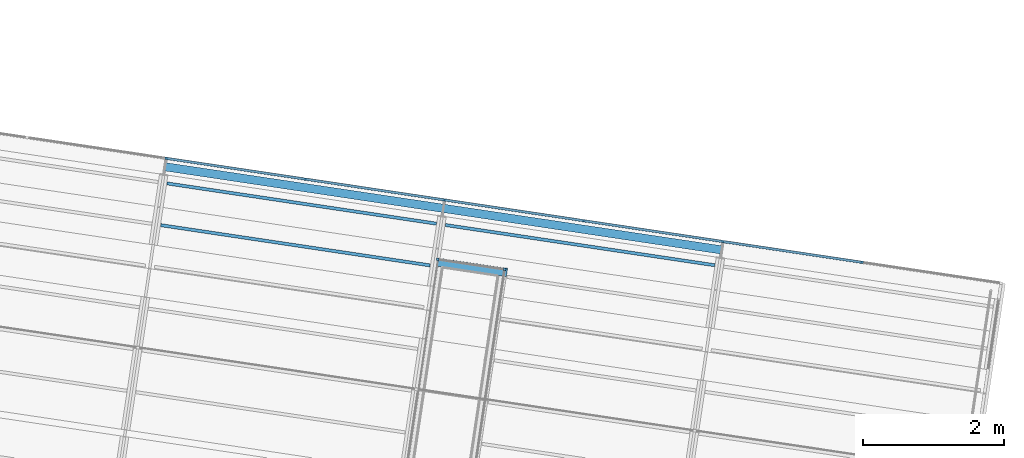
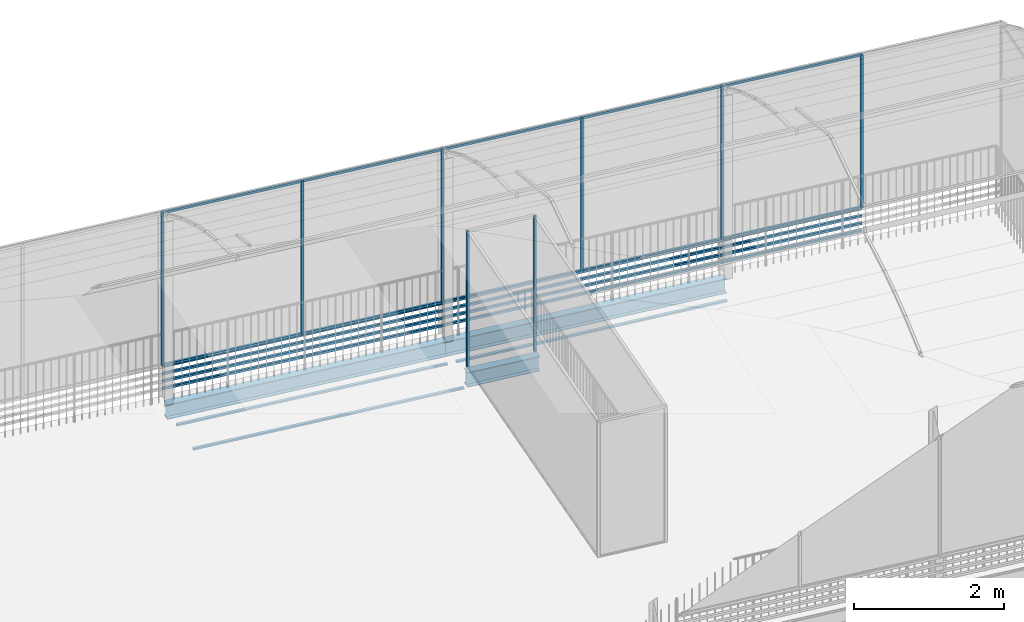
# One storey, part 16 of 34: 46 members, 6 beams.
"""IFC4 building model written with IfcOpenShell, lengths in metres."""

import ifcopenshell
import ifcopenshell.guid

model = None  # the IFC model being written
_history = None  # IfcOwnerHistory: only IFC2X3 demands one
_inside = {}  # id of a spatial element -> (the spatial element, [elements in it])
_under = {}  # id of a project, library or spatial element -> (it, [spatial elements below it])
_declared = {}  # id of a project -> (the project, [libraries it declares])
_typed = {}  # id of a type object -> (the type object, [elements of that type])
_made_of = {}  # id of a material, layer set ... -> (it, [elements and type objects made of it])


def new_model(schema):
    """Start an empty IFC model of exactly this schema.

    Asked for "IFC4X3", IfcOpenShell would pick the latest addendum, in which some entities
    have other attributes; the version numbers below select the first issue.
    IFC2X3 requires an IfcOwnerHistory on every rooted entity: one is made here for all.
    """
    global model, _history
    if schema == "IFC4X3":
        model = ifcopenshell.file(schema_version=(4, 3, 0, 0))
    else:
        model = ifcopenshell.file(schema=schema)
    _inside.clear()
    _under.clear()
    _declared.clear()
    _typed.clear()
    _made_of.clear()
    _history = None
    if model.schema == "IFC2X3":
        org = make("IfcOrganization", Name="unknown")
        user = make(
            "IfcPersonAndOrganization",
            ThePerson=make("IfcPerson", FamilyName="unknown"),
            TheOrganization=org,
        )
        app = make(
            "IfcApplication",
            ApplicationDeveloper=org,
            Version="unknown",
            ApplicationFullName="unknown",
            ApplicationIdentifier="unknown",
        )
        _history = make(
            "IfcOwnerHistory",
            OwningUser=user,
            OwningApplication=app,
            ChangeAction="ADDED",
            CreationDate=0,
        )
    return model


def make(cls, **values):
    """One entity of the class cls with the attributes given. An attribute that is None is left unset."""
    return model.create_entity(
        cls, **{name: value for name, value in values.items() if value is not None}
    )


def rooted(cls, **values):
    """An entity with a GlobalId (a new one), such as an element, a storey or a relation."""
    return make(cls, GlobalId=ifcopenshell.guid.new(), OwnerHistory=_history, **values)


def si_unit(unit_type, name, prefix=None):
    """IfcSIUnit, for example si_unit("LENGTHUNIT", "METRE", prefix="MILLI")."""
    return make("IfcSIUnit", UnitType=unit_type, Prefix=prefix, Name=name)


def assignment(units):
    """IfcUnitAssignment: the units of a project."""
    return None if units is None else make("IfcUnitAssignment", Units=units)


def point(xyz):
    """IfcCartesianPoint."""
    return None if xyz is None else make("IfcCartesianPoint", Coordinates=xyz)


def direction(xyz):
    """IfcDirection."""
    return None if xyz is None else make("IfcDirection", DirectionRatios=xyz)


def frame(location, z_axis=None, x_axis=None):
    """IfcAxis2Placement3D, a coordinate frame: its origin and axes. An axis left out is left unset."""
    return make(
        "IfcAxis2Placement3D",
        Location=point(location),
        Axis=direction(z_axis),
        RefDirection=direction(x_axis),
    )


def origin_with_axes():
    """The frame at (0, 0, 0) with the z axis (0, 0, 1) and the x axis (1, 0, 0) written out."""
    return frame((0.0, 0.0, 0.0), z_axis=(0.0, 0.0, 1.0), x_axis=(1.0, 0.0, 0.0))


def place(relative_to, where):
    """IfcLocalPlacement: puts the frame where relative to a parent placement (None: the world)."""
    return make(
        "IfcLocalPlacement", PlacementRelTo=relative_to, RelativePlacement=where
    )


def context(
    kind, dimensions, precision=None, world=None, true_north=None, identifier=None
):
    """IfcGeometricRepresentationContext, for example the 3D "Model" context."""
    return make(
        "IfcGeometricRepresentationContext",
        ContextIdentifier=identifier,
        ContextType=kind,
        CoordinateSpaceDimension=dimensions,
        Precision=precision,
        WorldCoordinateSystem=world,
        TrueNorth=true_north,
    )


def subcontext(parent, identifier, kind, view, scale=None):
    """IfcGeometricRepresentationSubContext, for example "Body" below "Model"."""
    return make(
        "IfcGeometricRepresentationSubContext",
        ContextIdentifier=identifier,
        ContextType=kind,
        ParentContext=parent,
        TargetScale=scale,
        TargetView=view,
    )


def project(units=None, contexts=None):
    """IfcProject with its units and contexts."""
    return rooted(
        "IfcProject",
        Name="project",
        RepresentationContexts=contexts,
        UnitsInContext=assignment(units),
    )


def spatial(cls, under=None, at=None, **own):
    """A site, building, storey or space (cls), placed at a placement, below another one or the project."""
    s = rooted(cls, ObjectPlacement=at, **own)
    if under is not None:
        _under.setdefault(under.id(), (under, []))[1].append(s)
    return s


def polyline(points):
    """IfcPolyline through the points."""
    return make("IfcPolyline", Points=[point(p) for p in points])


def profile(cls, at=None, kind="AREA", **sizes):
    """A parametric profile (cls). Its sizes go by their IFC names, for example OverallWidth=200.0."""
    return make(cls, ProfileType=kind, Position=at, **sizes)


def rectangle(**sizes):
    """IfcRectangleProfileDef."""
    return profile("IfcRectangleProfileDef", **sizes)


def i_section(**sizes):
    """IfcIShapeProfileDef."""
    return profile("IfcIShapeProfileDef", **sizes)


def outline(outer, holes=None, kind="AREA"):
    """IfcArbitraryClosedProfileDef: a profile drawn as a closed curve; with holes, ...WithVoids."""
    if holes is None:
        return make("IfcArbitraryClosedProfileDef", ProfileType=kind, OuterCurve=outer)
    return make(
        "IfcArbitraryProfileDefWithVoids",
        ProfileType=kind,
        OuterCurve=outer,
        InnerCurves=holes,
    )


def extrude(swept, where, along, depth):
    """IfcExtrudedAreaSolid: the profile swept, set in the frame where, extruded along a direction by depth."""
    return make(
        "IfcExtrudedAreaSolid",
        SweptArea=swept,
        Position=where,
        ExtrudedDirection=direction(along),
        Depth=depth,
    )


def shape(context_of_items, identifier, shape_type, items):
    """IfcShapeRepresentation: the items that make up one representation, for example the "Body"."""
    return make(
        "IfcShapeRepresentation",
        ContextOfItems=context_of_items,
        RepresentationIdentifier=identifier,
        RepresentationType=shape_type,
        Items=items,
    )


def material(Name=None, Category=None):
    """IfcMaterial."""
    return make("IfcMaterial", Name=Name, Category=Category)


def material_profile(
    of_material, cross_section, Name=None, Category=None, Priority=None
):
    """IfcMaterialProfile: a cross section and its material."""
    return make(
        "IfcMaterialProfile",
        Name=Name,
        Material=of_material,
        Profile=cross_section,
        Priority=Priority,
        Category=Category,
    )


def profile_set(profiles, Name=None, composite=None):
    """IfcMaterialProfileSet."""
    return make(
        "IfcMaterialProfileSet",
        Name=Name,
        MaterialProfiles=profiles,
        CompositeProfile=composite,
    )


def profile_usage(for_profile_set, cardinal=None, extent=None):
    """IfcMaterialProfileSetUsage: how a profile set lies along its element."""
    return make(
        "IfcMaterialProfileSetUsage",
        ForProfileSet=for_profile_set,
        CardinalPoint=cardinal,
        ReferenceExtent=extent,
    )


def made_of(thing, what):
    """Note that an element or type object is made of a material, layer set ...; save() writes the relation."""
    if what is not None:
        _made_of.setdefault(what.id(), (what, []))[1].append(thing)
    return thing


def type_object(cls, material=None, **own):
    """A type object (cls), such as IfcWallType, which elements share."""
    return made_of(rooted(cls, **own), material)


def element(
    cls,
    number,
    at=None,
    inside=None,
    cuts=None,
    type_object=None,
    material=None,
    context=None,
    identifier="Body",
    shape_type=None,
    held_by="IfcProductDefinitionShape",
    body=None,
    shapes=None,
    **own,
):
    """One element of the class cls, such as IfcWall. Its Tag is "e" and its number.

    at: its placement. inside: the storey or other place that contains it. cuts: it is an
    opening in that element (IfcRelVoidsElement). A single representation is given by context,
    identifier, shape_type and body (its items); several are given by shapes. held_by: the class
    of the entity that holds the representations. save() writes the other relations.
    """
    e = rooted(cls, Tag="e%d" % number, ObjectPlacement=at, **own)
    if body is not None:
        shapes = [shape(context, identifier, shape_type, body)]
    if shapes is not None:
        e.Representation = make(held_by, Representations=shapes)
    if inside is not None:
        _inside.setdefault(inside.id(), (inside, []))[1].append(e)
    if cuts is not None:
        rooted(
            "IfcRelVoidsElement", RelatingBuildingElement=cuts, RelatedOpeningElement=e
        )
    if type_object is not None:
        _typed.setdefault(type_object.id(), (type_object, []))[1].append(e)
    return made_of(e, material)


def aggregate(whole, parts):
    """IfcRelAggregates: a whole, such as a stair, and the parts it consists of."""
    return rooted("IfcRelAggregates", RelatingObject=whole, RelatedObjects=parts)


def save(model, path):
    """Write the relations noted so far, then the file.

    IfcRelAggregates (storeys below a building ...), IfcRelContainedInSpatialStructure (elements
    in a storey), IfcRelDefinesByType, IfcRelAssociatesMaterial and IfcRelDeclares: one each for
    every whole, place, type object, material and project.
    """
    for whole, parts in _under.values():
        aggregate(whole, parts)
    for where, things in _inside.values():
        rooted(
            "IfcRelContainedInSpatialStructure",
            RelatedElements=things,
            RelatingStructure=where,
        )
    for kind, things in _typed.values():
        rooted("IfcRelDefinesByType", RelatedObjects=things, RelatingType=kind)
    for what, things in _made_of.values():
        rooted("IfcRelAssociatesMaterial", RelatedObjects=things, RelatingMaterial=what)
    for by, libraries in _declared.values():
        rooted("IfcRelDeclares", RelatingContext=by, RelatedDefinitions=libraries)
    model.write(path)


model = new_model("IFC4")

# Units and contexts
model_context = context("Model", 3, precision=1e-05, world=origin_with_axes(), true_north=direction((0.0, 1.0)))
body_context = subcontext(model_context, "Body", "Model", "MODEL_VIEW")
ifc_project = project(units=[si_unit("LENGTHUNIT", "METRE"), si_unit("AREAUNIT", "SQUARE_METRE"), si_unit("VOLUMEUNIT", "CUBIC_METRE")], contexts=[model_context])

# Site, building, storey
site_placement = place(None, origin_with_axes())
site = spatial("IfcSite", under=ifc_project, at=site_placement, Name="Lares · Rua das Mercês · artigo 4771")
building_placement = place(site_placement, frame((15.0, 9.7, 14.65), z_axis=(0.0, 0.0, 1.0), x_axis=(0.989015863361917, -0.147809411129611, 0.0)))
building = spatial("IfcBuilding", under=site, at=building_placement, Name="Casa Sobreposta")
storey_placement = place(building_placement, frame((0.0, 0.0, 3.24), z_axis=(0.0, 0.0, 1.0), x_axis=(1.0, 0.0, 0.0)))
storey = spatial("IfcBuildingStorey", under=building, at=storey_placement, Name="01 · Jardim de inverno", Elevation=17.89)

# Beams
ifc_material_1 = material(Name="Aço pintado / Stahl lackiert", Category="steel")
ifc_material_profile_1 = material_profile(ifc_material_1, i_section(OverallWidth=0.12, OverallDepth=0.24, WebThickness=0.0062, FlangeThickness=0.0098))
ifc_profile_set_1 = profile_set([ifc_material_profile_1], Name="IPE240")
ifc_profile_usage_1 = profile_usage(ifc_profile_set_1)
beam_type = type_object("IfcBeamType", Name="IPE240 / steel", PredefinedType="NOTDEFINED", material=ifc_profile_set_1)
beam_1_placement = place(storey_placement, frame((20.0, 6.28, -0.152), z_axis=(1.0, 0.0, 0.0), x_axis=(0.0, -1.0, 0.0)))
element("IfcBeam", 1, at=beam_1_placement, inside=storey, type_object=beam_type, material=ifc_profile_usage_1, Name="Viga longitudinal 20 / 6.28", context=body_context, shape_type="SweptSolid", body=[
    extrude(i_section(OverallWidth=0.12, OverallDepth=0.24, WebThickness=0.0062, FlangeThickness=0.0098), origin_with_axes(), (0.0, 0.0, 1.0), 4.0),
])
ifc_profile_usage_2 = profile_usage(ifc_profile_set_1)
beam_2_placement = place(storey_placement, frame((24.0, 6.28, -0.152), z_axis=(1.0, 0.0, 0.0), x_axis=(0.0, -1.0, 0.0)))
element("IfcBeam", 2, at=beam_2_placement, inside=storey, type_object=beam_type, material=ifc_profile_usage_2, Name="Viga longitudinal 24 / 6.28", context=body_context, shape_type="SweptSolid", body=[
    extrude(i_section(OverallWidth=0.12, OverallDepth=0.24, WebThickness=0.0062, FlangeThickness=0.0098), origin_with_axes(), (0.0, 0.0, 1.0), 4.0),
])
ifc_profile_usage_3 = profile_usage(ifc_profile_set_1)
beam_3_placement = place(storey_placement, frame((23.99, 5.5125, -0.152), z_axis=(1.0, 0.0, 0.0), x_axis=(0.0, -1.0, 0.0)))
element("IfcBeam", 3, at=beam_3_placement, inside=storey, type_object=beam_type, material=ifc_profile_usage_3, Name="Cabeceira do vão 2", context=body_context, shape_type="SweptSolid", body=[
    extrude(i_section(OverallWidth=0.12, OverallDepth=0.24, WebThickness=0.0062, FlangeThickness=0.0098), origin_with_axes(), (0.0, 0.0, 1.0), 1.04),
])

# Members
ifc_material_profile_2 = material_profile(ifc_material_1, rectangle(XDim=0.035, YDim=0.035))
ifc_profile_set_2 = profile_set([ifc_material_profile_2], Name="R0.035")
ifc_profile_usage_4 = profile_usage(ifc_profile_set_2)
member_type = type_object("IfcMemberType", Name="R0.035 / steel", PredefinedType="NOTDEFINED", material=ifc_profile_set_2)
member_1_placement = place(storey_placement, frame((20.0, 6.4, 0.5), z_axis=(0.0, 0.0, 1.0), x_axis=(1.0, 0.0, 0.0)))
element("IfcMember", 4, at=member_1_placement, inside=storey, type_object=member_type, material=ifc_profile_usage_4, context=body_context, shape_type="SweptSolid", body=[
    extrude(rectangle(XDim=0.035, YDim=0.035), origin_with_axes(), (0.0, 0.0, 1.0), 2.48),
])
ifc_profile_usage_5 = profile_usage(ifc_profile_set_2)
member_2_placement = place(storey_placement, frame((20.0, 6.4, 0.5), z_axis=(0.0, 0.0, 1.0), x_axis=(1.0, 0.0, 0.0)))
element("IfcMember", 5, at=member_2_placement, inside=storey, type_object=member_type, material=ifc_profile_usage_5, context=body_context, shape_type="SweptSolid", body=[
    extrude(rectangle(XDim=0.035, YDim=0.035), origin_with_axes(), (0.0, 0.0, 1.0), 2.48),
])
ifc_profile_usage_6 = profile_usage(ifc_profile_set_2)
member_3_placement = place(storey_placement, frame((22.0, 6.4, 0.5), z_axis=(0.0, 0.0, 1.0), x_axis=(1.0, 0.0, 0.0)))
element("IfcMember", 6, at=member_3_placement, inside=storey, type_object=member_type, material=ifc_profile_usage_6, context=body_context, shape_type="SweptSolid", body=[
    extrude(rectangle(XDim=0.035, YDim=0.035), origin_with_axes(), (0.0, 0.0, 1.0), 2.48),
])
ifc_profile_usage_7 = profile_usage(ifc_profile_set_2)
member_4_placement = place(storey_placement, frame((20.0, 6.4, 0.5), z_axis=(1.0, 0.0, 0.0), x_axis=(0.0, -1.0, 0.0)))
element("IfcMember", 7, at=member_4_placement, inside=storey, type_object=member_type, material=ifc_profile_usage_7, Name="Estufa norte 11 · travessa", context=body_context, shape_type="SweptSolid", body=[
    extrude(rectangle(XDim=0.035, YDim=0.035), origin_with_axes(), (0.0, 0.0, 1.0), 2.0),
])
ifc_profile_usage_8 = profile_usage(ifc_profile_set_2)
member_5_placement = place(storey_placement, frame((20.0, 6.4, 2.98), z_axis=(1.0, 0.0, 0.0), x_axis=(0.0, -1.0, 0.0)))
element("IfcMember", 8, at=member_5_placement, inside=storey, type_object=member_type, material=ifc_profile_usage_8, Name="Estufa norte 11 · travessa", context=body_context, shape_type="SweptSolid", body=[
    extrude(rectangle(XDim=0.035, YDim=0.035), origin_with_axes(), (0.0, 0.0, 1.0), 2.0),
])
ifc_profile_usage_9 = profile_usage(ifc_profile_set_2)
member_6_placement = place(storey_placement, frame((20.0, 6.4, 0.12), z_axis=(1.0, 0.0, 0.0), x_axis=(0.0, -1.0, 0.0)))
element("IfcMember", 9, at=member_6_placement, inside=storey, type_object=member_type, material=ifc_profile_usage_9, Name="Entrada de ar norte 11", context=body_context, shape_type="SweptSolid", body=[
    extrude(rectangle(XDim=0.035, YDim=0.035), origin_with_axes(), (0.0, 0.0, 1.0), 2.0),
])
ifc_profile_usage_10 = profile_usage(ifc_profile_set_2)
member_7_placement = place(storey_placement, frame((20.0, 6.4, 0.24), z_axis=(1.0, 0.0, 0.0), x_axis=(0.0, -1.0, 0.0)))
element("IfcMember", 10, at=member_7_placement, inside=storey, type_object=member_type, material=ifc_profile_usage_10, Name="Entrada de ar norte 11", context=body_context, shape_type="SweptSolid", body=[
    extrude(rectangle(XDim=0.035, YDim=0.035), origin_with_axes(), (0.0, 0.0, 1.0), 2.0),
])
ifc_profile_usage_11 = profile_usage(ifc_profile_set_2)
member_8_placement = place(storey_placement, frame((20.0, 6.4, 0.36), z_axis=(1.0, 0.0, 0.0), x_axis=(0.0, -1.0, 0.0)))
element("IfcMember", 11, at=member_8_placement, inside=storey, type_object=member_type, material=ifc_profile_usage_11, Name="Entrada de ar norte 11", context=body_context, shape_type="SweptSolid", body=[
    extrude(rectangle(XDim=0.035, YDim=0.035), origin_with_axes(), (0.0, 0.0, 1.0), 2.0),
])
ifc_profile_usage_12 = profile_usage(ifc_profile_set_2)
member_9_placement = place(storey_placement, frame((20.0, 6.4, 0.48), z_axis=(1.0, 0.0, 0.0), x_axis=(0.0, -1.0, 0.0)))
element("IfcMember", 12, at=member_9_placement, inside=storey, type_object=member_type, material=ifc_profile_usage_12, Name="Entrada de ar norte 11", context=body_context, shape_type="SweptSolid", body=[
    extrude(rectangle(XDim=0.035, YDim=0.035), origin_with_axes(), (0.0, 0.0, 1.0), 2.0),
])
ifc_profile_usage_13 = profile_usage(ifc_profile_set_2)
member_10_placement = place(storey_placement, frame((22.0, 6.4, 0.5), z_axis=(0.0, 0.0, 1.0), x_axis=(1.0, 0.0, 0.0)))
element("IfcMember", 13, at=member_10_placement, inside=storey, type_object=member_type, material=ifc_profile_usage_13, context=body_context, shape_type="SweptSolid", body=[
    extrude(rectangle(XDim=0.035, YDim=0.035), origin_with_axes(), (0.0, 0.0, 1.0), 2.48),
])
ifc_profile_usage_14 = profile_usage(ifc_profile_set_2)
member_11_placement = place(storey_placement, frame((24.0, 6.4, 0.5), z_axis=(0.0, 0.0, 1.0), x_axis=(1.0, 0.0, 0.0)))
element("IfcMember", 14, at=member_11_placement, inside=storey, type_object=member_type, material=ifc_profile_usage_14, context=body_context, shape_type="SweptSolid", body=[
    extrude(rectangle(XDim=0.035, YDim=0.035), origin_with_axes(), (0.0, 0.0, 1.0), 2.48),
])
ifc_profile_usage_15 = profile_usage(ifc_profile_set_2)
member_12_placement = place(storey_placement, frame((22.0, 6.4, 0.5), z_axis=(1.0, 0.0, 0.0), x_axis=(0.0, -1.0, 0.0)))
element("IfcMember", 15, at=member_12_placement, inside=storey, type_object=member_type, material=ifc_profile_usage_15, Name="Estufa norte 12 · travessa", context=body_context, shape_type="SweptSolid", body=[
    extrude(rectangle(XDim=0.035, YDim=0.035), origin_with_axes(), (0.0, 0.0, 1.0), 2.0),
])
ifc_profile_usage_16 = profile_usage(ifc_profile_set_2)
member_13_placement = place(storey_placement, frame((22.0, 6.4, 2.98), z_axis=(1.0, 0.0, 0.0), x_axis=(0.0, -1.0, 0.0)))
element("IfcMember", 16, at=member_13_placement, inside=storey, type_object=member_type, material=ifc_profile_usage_16, Name="Estufa norte 12 · travessa", context=body_context, shape_type="SweptSolid", body=[
    extrude(rectangle(XDim=0.035, YDim=0.035), origin_with_axes(), (0.0, 0.0, 1.0), 2.0),
])
ifc_profile_usage_17 = profile_usage(ifc_profile_set_2)
member_14_placement = place(storey_placement, frame((22.0, 6.4, 0.12), z_axis=(1.0, 0.0, 0.0), x_axis=(0.0, -1.0, 0.0)))
element("IfcMember", 17, at=member_14_placement, inside=storey, type_object=member_type, material=ifc_profile_usage_17, Name="Entrada de ar norte 12", context=body_context, shape_type="SweptSolid", body=[
    extrude(rectangle(XDim=0.035, YDim=0.035), origin_with_axes(), (0.0, 0.0, 1.0), 2.0),
])
ifc_profile_usage_18 = profile_usage(ifc_profile_set_2)
member_15_placement = place(storey_placement, frame((22.0, 6.4, 0.24), z_axis=(1.0, 0.0, 0.0), x_axis=(0.0, -1.0, 0.0)))
element("IfcMember", 18, at=member_15_placement, inside=storey, type_object=member_type, material=ifc_profile_usage_18, Name="Entrada de ar norte 12", context=body_context, shape_type="SweptSolid", body=[
    extrude(rectangle(XDim=0.035, YDim=0.035), origin_with_axes(), (0.0, 0.0, 1.0), 2.0),
])
ifc_profile_usage_19 = profile_usage(ifc_profile_set_2)
member_16_placement = place(storey_placement, frame((22.0, 6.4, 0.36), z_axis=(1.0, 0.0, 0.0), x_axis=(0.0, -1.0, 0.0)))
element("IfcMember", 19, at=member_16_placement, inside=storey, type_object=member_type, material=ifc_profile_usage_19, Name="Entrada de ar norte 12", context=body_context, shape_type="SweptSolid", body=[
    extrude(rectangle(XDim=0.035, YDim=0.035), origin_with_axes(), (0.0, 0.0, 1.0), 2.0),
])
ifc_profile_usage_20 = profile_usage(ifc_profile_set_2)
member_17_placement = place(storey_placement, frame((22.0, 6.4, 0.48), z_axis=(1.0, 0.0, 0.0), x_axis=(0.0, -1.0, 0.0)))
element("IfcMember", 20, at=member_17_placement, inside=storey, type_object=member_type, material=ifc_profile_usage_20, Name="Entrada de ar norte 12", context=body_context, shape_type="SweptSolid", body=[
    extrude(rectangle(XDim=0.035, YDim=0.035), origin_with_axes(), (0.0, 0.0, 1.0), 2.0),
])
ifc_profile_usage_21 = profile_usage(ifc_profile_set_2)
member_18_placement = place(storey_placement, frame((24.0, 6.4, 0.5), z_axis=(0.0, 0.0, 1.0), x_axis=(1.0, 0.0, 0.0)))
element("IfcMember", 21, at=member_18_placement, inside=storey, type_object=member_type, material=ifc_profile_usage_21, context=body_context, shape_type="SweptSolid", body=[
    extrude(rectangle(XDim=0.035, YDim=0.035), origin_with_axes(), (0.0, 0.0, 1.0), 2.48),
])
ifc_profile_usage_22 = profile_usage(ifc_profile_set_2)
member_19_placement = place(storey_placement, frame((26.0, 6.4, 0.5), z_axis=(0.0, 0.0, 1.0), x_axis=(1.0, 0.0, 0.0)))
element("IfcMember", 22, at=member_19_placement, inside=storey, type_object=member_type, material=ifc_profile_usage_22, context=body_context, shape_type="SweptSolid", body=[
    extrude(rectangle(XDim=0.035, YDim=0.035), origin_with_axes(), (0.0, 0.0, 1.0), 2.48),
])
ifc_profile_usage_23 = profile_usage(ifc_profile_set_2)
member_20_placement = place(storey_placement, frame((24.0, 6.4, 0.5), z_axis=(1.0, 0.0, 0.0), x_axis=(0.0, -1.0, 0.0)))
element("IfcMember", 23, at=member_20_placement, inside=storey, type_object=member_type, material=ifc_profile_usage_23, Name="Estufa norte 13 · travessa", context=body_context, shape_type="SweptSolid", body=[
    extrude(rectangle(XDim=0.035, YDim=0.035), origin_with_axes(), (0.0, 0.0, 1.0), 2.0),
])
ifc_profile_usage_24 = profile_usage(ifc_profile_set_2)
member_21_placement = place(storey_placement, frame((24.0, 6.4, 2.98), z_axis=(1.0, 0.0, 0.0), x_axis=(0.0, -1.0, 0.0)))
element("IfcMember", 24, at=member_21_placement, inside=storey, type_object=member_type, material=ifc_profile_usage_24, Name="Estufa norte 13 · travessa", context=body_context, shape_type="SweptSolid", body=[
    extrude(rectangle(XDim=0.035, YDim=0.035), origin_with_axes(), (0.0, 0.0, 1.0), 2.0),
])
ifc_profile_usage_25 = profile_usage(ifc_profile_set_2)
member_22_placement = place(storey_placement, frame((24.0, 6.4, 0.12), z_axis=(1.0, 0.0, 0.0), x_axis=(0.0, -1.0, 0.0)))
element("IfcMember", 25, at=member_22_placement, inside=storey, type_object=member_type, material=ifc_profile_usage_25, Name="Entrada de ar norte 13", context=body_context, shape_type="SweptSolid", body=[
    extrude(rectangle(XDim=0.035, YDim=0.035), origin_with_axes(), (0.0, 0.0, 1.0), 2.0),
])
ifc_profile_usage_26 = profile_usage(ifc_profile_set_2)
member_23_placement = place(storey_placement, frame((24.0, 6.4, 0.24), z_axis=(1.0, 0.0, 0.0), x_axis=(0.0, -1.0, 0.0)))
element("IfcMember", 26, at=member_23_placement, inside=storey, type_object=member_type, material=ifc_profile_usage_26, Name="Entrada de ar norte 13", context=body_context, shape_type="SweptSolid", body=[
    extrude(rectangle(XDim=0.035, YDim=0.035), origin_with_axes(), (0.0, 0.0, 1.0), 2.0),
])
ifc_profile_usage_27 = profile_usage(ifc_profile_set_2)
member_24_placement = place(storey_placement, frame((24.0, 6.4, 0.36), z_axis=(1.0, 0.0, 0.0), x_axis=(0.0, -1.0, 0.0)))
element("IfcMember", 27, at=member_24_placement, inside=storey, type_object=member_type, material=ifc_profile_usage_27, Name="Entrada de ar norte 13", context=body_context, shape_type="SweptSolid", body=[
    extrude(rectangle(XDim=0.035, YDim=0.035), origin_with_axes(), (0.0, 0.0, 1.0), 2.0),
])
ifc_profile_usage_28 = profile_usage(ifc_profile_set_2)
member_25_placement = place(storey_placement, frame((24.0, 6.4, 0.48), z_axis=(1.0, 0.0, 0.0), x_axis=(0.0, -1.0, 0.0)))
element("IfcMember", 28, at=member_25_placement, inside=storey, type_object=member_type, material=ifc_profile_usage_28, Name="Entrada de ar norte 13", context=body_context, shape_type="SweptSolid", body=[
    extrude(rectangle(XDim=0.035, YDim=0.035), origin_with_axes(), (0.0, 0.0, 1.0), 2.0),
])
ifc_profile_usage_29 = profile_usage(ifc_profile_set_2)
member_26_placement = place(storey_placement, frame((26.0, 6.4, 0.5), z_axis=(0.0, 0.0, 1.0), x_axis=(1.0, 0.0, 0.0)))
element("IfcMember", 29, at=member_26_placement, inside=storey, type_object=member_type, material=ifc_profile_usage_29, context=body_context, shape_type="SweptSolid", body=[
    extrude(rectangle(XDim=0.035, YDim=0.035), origin_with_axes(), (0.0, 0.0, 1.0), 2.48),
])
ifc_profile_usage_30 = profile_usage(ifc_profile_set_2)
member_27_placement = place(storey_placement, frame((28.0, 6.4, 0.5), z_axis=(0.0, 0.0, 1.0), x_axis=(1.0, 0.0, 0.0)))
element("IfcMember", 30, at=member_27_placement, inside=storey, type_object=member_type, material=ifc_profile_usage_30, context=body_context, shape_type="SweptSolid", body=[
    extrude(rectangle(XDim=0.035, YDim=0.035), origin_with_axes(), (0.0, 0.0, 1.0), 2.48),
])
ifc_profile_usage_31 = profile_usage(ifc_profile_set_2)
member_28_placement = place(storey_placement, frame((26.0, 6.4, 0.5), z_axis=(1.0, 0.0, 0.0), x_axis=(0.0, -1.0, 0.0)))
element("IfcMember", 31, at=member_28_placement, inside=storey, type_object=member_type, material=ifc_profile_usage_31, Name="Estufa norte 14 · travessa", context=body_context, shape_type="SweptSolid", body=[
    extrude(rectangle(XDim=0.035, YDim=0.035), origin_with_axes(), (0.0, 0.0, 1.0), 2.0),
])
ifc_profile_usage_32 = profile_usage(ifc_profile_set_2)
member_29_placement = place(storey_placement, frame((26.0, 6.4, 2.98), z_axis=(1.0, 0.0, 0.0), x_axis=(0.0, -1.0, 0.0)))
element("IfcMember", 32, at=member_29_placement, inside=storey, type_object=member_type, material=ifc_profile_usage_32, Name="Estufa norte 14 · travessa", context=body_context, shape_type="SweptSolid", body=[
    extrude(rectangle(XDim=0.035, YDim=0.035), origin_with_axes(), (0.0, 0.0, 1.0), 2.0),
])
ifc_profile_usage_33 = profile_usage(ifc_profile_set_2)
member_30_placement = place(storey_placement, frame((26.0, 6.4, 0.12), z_axis=(1.0, 0.0, 0.0), x_axis=(0.0, -1.0, 0.0)))
element("IfcMember", 33, at=member_30_placement, inside=storey, type_object=member_type, material=ifc_profile_usage_33, Name="Entrada de ar norte 14", context=body_context, shape_type="SweptSolid", body=[
    extrude(rectangle(XDim=0.035, YDim=0.035), origin_with_axes(), (0.0, 0.0, 1.0), 2.0),
])
ifc_profile_usage_34 = profile_usage(ifc_profile_set_2)
member_31_placement = place(storey_placement, frame((26.0, 6.4, 0.24), z_axis=(1.0, 0.0, 0.0), x_axis=(0.0, -1.0, 0.0)))
element("IfcMember", 34, at=member_31_placement, inside=storey, type_object=member_type, material=ifc_profile_usage_34, Name="Entrada de ar norte 14", context=body_context, shape_type="SweptSolid", body=[
    extrude(rectangle(XDim=0.035, YDim=0.035), origin_with_axes(), (0.0, 0.0, 1.0), 2.0),
])
ifc_profile_usage_35 = profile_usage(ifc_profile_set_2)
member_32_placement = place(storey_placement, frame((26.0, 6.4, 0.36), z_axis=(1.0, 0.0, 0.0), x_axis=(0.0, -1.0, 0.0)))
element("IfcMember", 35, at=member_32_placement, inside=storey, type_object=member_type, material=ifc_profile_usage_35, Name="Entrada de ar norte 14", context=body_context, shape_type="SweptSolid", body=[
    extrude(rectangle(XDim=0.035, YDim=0.035), origin_with_axes(), (0.0, 0.0, 1.0), 2.0),
])
ifc_profile_usage_36 = profile_usage(ifc_profile_set_2)
member_33_placement = place(storey_placement, frame((26.0, 6.4, 0.48), z_axis=(1.0, 0.0, 0.0), x_axis=(0.0, -1.0, 0.0)))
element("IfcMember", 36, at=member_33_placement, inside=storey, type_object=member_type, material=ifc_profile_usage_36, Name="Entrada de ar norte 14", context=body_context, shape_type="SweptSolid", body=[
    extrude(rectangle(XDim=0.035, YDim=0.035), origin_with_axes(), (0.0, 0.0, 1.0), 2.0),
])
ifc_profile_usage_37 = profile_usage(ifc_profile_set_2)
member_34_placement = place(storey_placement, frame((28.0, 6.4, 0.5), z_axis=(0.0, 0.0, 1.0), x_axis=(1.0, 0.0, 0.0)))
element("IfcMember", 37, at=member_34_placement, inside=storey, type_object=member_type, material=ifc_profile_usage_37, context=body_context, shape_type="SweptSolid", body=[
    extrude(rectangle(XDim=0.035, YDim=0.035), origin_with_axes(), (0.0, 0.0, 1.0), 2.48),
])
ifc_profile_usage_38 = profile_usage(ifc_profile_set_2)
member_35_placement = place(storey_placement, frame((30.0, 6.4, 0.5), z_axis=(0.0, 0.0, 1.0), x_axis=(1.0, 0.0, 0.0)))
element("IfcMember", 38, at=member_35_placement, inside=storey, type_object=member_type, material=ifc_profile_usage_38, context=body_context, shape_type="SweptSolid", body=[
    extrude(rectangle(XDim=0.035, YDim=0.035), origin_with_axes(), (0.0, 0.0, 1.0), 2.48),
])
ifc_profile_usage_39 = profile_usage(ifc_profile_set_2)
member_36_placement = place(storey_placement, frame((28.0, 6.4, 0.5), z_axis=(1.0, 0.0, 0.0), x_axis=(0.0, -1.0, 0.0)))
element("IfcMember", 39, at=member_36_placement, inside=storey, type_object=member_type, material=ifc_profile_usage_39, Name="Estufa norte 15 · travessa", context=body_context, shape_type="SweptSolid", body=[
    extrude(rectangle(XDim=0.035, YDim=0.035), origin_with_axes(), (0.0, 0.0, 1.0), 2.0),
])
ifc_profile_usage_40 = profile_usage(ifc_profile_set_2)
member_37_placement = place(storey_placement, frame((28.0, 6.4, 2.98), z_axis=(1.0, 0.0, 0.0), x_axis=(0.0, -1.0, 0.0)))
element("IfcMember", 40, at=member_37_placement, inside=storey, type_object=member_type, material=ifc_profile_usage_40, Name="Estufa norte 15 · travessa", context=body_context, shape_type="SweptSolid", body=[
    extrude(rectangle(XDim=0.035, YDim=0.035), origin_with_axes(), (0.0, 0.0, 1.0), 2.0),
])
ifc_profile_usage_41 = profile_usage(ifc_profile_set_2)
member_38_placement = place(storey_placement, frame((28.0, 6.4, 0.12), z_axis=(1.0, 0.0, 0.0), x_axis=(0.0, -1.0, 0.0)))
element("IfcMember", 41, at=member_38_placement, inside=storey, type_object=member_type, material=ifc_profile_usage_41, Name="Entrada de ar norte 15", context=body_context, shape_type="SweptSolid", body=[
    extrude(rectangle(XDim=0.035, YDim=0.035), origin_with_axes(), (0.0, 0.0, 1.0), 2.0),
])
ifc_profile_usage_42 = profile_usage(ifc_profile_set_2)
member_39_placement = place(storey_placement, frame((28.0, 6.4, 0.24), z_axis=(1.0, 0.0, 0.0), x_axis=(0.0, -1.0, 0.0)))
element("IfcMember", 42, at=member_39_placement, inside=storey, type_object=member_type, material=ifc_profile_usage_42, Name="Entrada de ar norte 15", context=body_context, shape_type="SweptSolid", body=[
    extrude(rectangle(XDim=0.035, YDim=0.035), origin_with_axes(), (0.0, 0.0, 1.0), 2.0),
])
ifc_profile_usage_43 = profile_usage(ifc_profile_set_2)
member_40_placement = place(storey_placement, frame((28.0, 6.4, 0.36), z_axis=(1.0, 0.0, 0.0), x_axis=(0.0, -1.0, 0.0)))
element("IfcMember", 43, at=member_40_placement, inside=storey, type_object=member_type, material=ifc_profile_usage_43, Name="Entrada de ar norte 15", context=body_context, shape_type="SweptSolid", body=[
    extrude(rectangle(XDim=0.035, YDim=0.035), origin_with_axes(), (0.0, 0.0, 1.0), 2.0),
])
ifc_profile_usage_44 = profile_usage(ifc_profile_set_2)
member_41_placement = place(storey_placement, frame((28.0, 6.4, 0.48), z_axis=(1.0, 0.0, 0.0), x_axis=(0.0, -1.0, 0.0)))
element("IfcMember", 44, at=member_41_placement, inside=storey, type_object=member_type, material=ifc_profile_usage_44, Name="Entrada de ar norte 15", context=body_context, shape_type="SweptSolid", body=[
    extrude(rectangle(XDim=0.035, YDim=0.035), origin_with_axes(), (0.0, 0.0, 1.0), 2.0),
])
ifc_profile_usage_45 = profile_usage(ifc_profile_set_2)
member_42_placement = place(storey_placement, frame((30.0, 6.4, 0.5), z_axis=(0.0, 0.0, 1.0), x_axis=(1.0, 0.0, 0.0)))
element("IfcMember", 45, at=member_42_placement, inside=storey, type_object=member_type, material=ifc_profile_usage_45, context=body_context, shape_type="SweptSolid", body=[
    extrude(rectangle(XDim=0.035, YDim=0.035), origin_with_axes(), (0.0, 0.0, 1.0), 2.48),
])
ifc_profile_usage_46 = profile_usage(ifc_profile_set_2)
member_43_placement = place(storey_placement, frame((24.03, 5.55, 0.0), z_axis=(0.0, 0.0, 1.0), x_axis=(1.0, 0.0, 0.0)))
element("IfcMember", 46, at=member_43_placement, inside=storey, type_object=member_type, material=ifc_profile_usage_46, context=body_context, shape_type="SweptSolid", body=[
    extrude(rectangle(XDim=0.035, YDim=0.035), origin_with_axes(), (0.0, 0.0, 1.0), 2.2),
])
ifc_profile_usage_47 = profile_usage(ifc_profile_set_2)
member_44_placement = place(storey_placement, frame((24.99, 5.55, 0.0), z_axis=(0.0, 0.0, 1.0), x_axis=(1.0, 0.0, 0.0)))
element("IfcMember", 47, at=member_44_placement, inside=storey, type_object=member_type, material=ifc_profile_usage_47, context=body_context, shape_type="SweptSolid", body=[
    extrude(rectangle(XDim=0.035, YDim=0.035), origin_with_axes(), (0.0, 0.0, 1.0), 2.2),
])
ifc_profile_usage_48 = profile_usage(ifc_profile_set_2)
member_45_placement = place(storey_placement, frame((24.03, 5.55, 0.0), z_axis=(0.0, 0.0, 1.0), x_axis=(1.0, 0.0, 0.0)))
element("IfcMember", 48, at=member_45_placement, inside=storey, type_object=member_type, material=ifc_profile_usage_48, context=body_context, shape_type="SweptSolid", body=[
    extrude(rectangle(XDim=0.035, YDim=0.035), origin_with_axes(), (0.0, 0.0, 1.0), 2.2),
])
ifc_profile_usage_49 = profile_usage(ifc_profile_set_2)
member_46_placement = place(storey_placement, frame((24.99, 5.55, 0.0), z_axis=(0.0, 0.0, 1.0), x_axis=(1.0, 0.0, 0.0)))
element("IfcMember", 49, at=member_46_placement, inside=storey, type_object=member_type, material=ifc_profile_usage_49, context=body_context, shape_type="SweptSolid", body=[
    extrude(rectangle(XDim=0.035, YDim=0.035), origin_with_axes(), (0.0, 0.0, 1.0), 2.2),
])

# Beams
ifc_material_2 = material(Name="Madeira / Bauholz", Category="wood")
ifc_material_profile_3 = material_profile(ifc_material_2, outline(polyline([(0.022225, -0.12), (0.022225, -0.092), (-0.022225, -0.092), (-0.022225, -0.12), (0.022225, -0.12)])))
ifc_material_3 = material(Name="OSB", Category="wood")
ifc_material_profile_4 = material_profile(ifc_material_3, outline(polyline([(0.0047625, -0.092), (0.0047625, 0.092), (-0.0047625, 0.092), (-0.0047625, -0.092), (0.0047625, -0.092)])))
ifc_material_profile_5 = material_profile(ifc_material_2, outline(polyline([(0.022225, 0.092), (0.022225, 0.12), (-0.022225, 0.12), (-0.022225, 0.092), (0.022225, 0.092)])))
ifc_profile_set_3 = profile_set([ifc_material_profile_3, ifc_material_profile_4, ifc_material_profile_5], Name="TJI240 · madeira / OSB")
ifc_profile_usage_50 = profile_usage(ifc_profile_set_3)
beam_4_placement = place(storey_placement, frame((20.065, 5.45, -0.152), z_axis=(1.0, 0.0, 0.0), x_axis=(0.0, 1.0, 0.0)))
element("IfcBeam", 50, at=beam_4_placement, inside=storey, material=ifc_profile_usage_50, Name="TJI240 · 20.065 / 5.45", context=body_context, shape_type="SweptSolid", body=[
    extrude(outline(polyline([(0.022225, -0.12), (0.022225, -0.092), (-0.022225, -0.092), (-0.022225, -0.12), (0.022225, -0.12)])), origin_with_axes(), (0.0, 0.0, 1.0), 3.87),
    extrude(outline(polyline([(0.022225, -0.12), (0.022225, -0.092), (-0.022225, -0.092), (-0.022225, -0.12), (0.022225, -0.12)])), origin_with_axes(), (0.0, 0.0, 1.0), 3.87),
    extrude(outline(polyline([(0.022225, -0.12), (0.022225, -0.092), (-0.022225, -0.092), (-0.022225, -0.12), (0.022225, -0.12)])), origin_with_axes(), (0.0, 0.0, 1.0), 3.87),
])
ifc_material_profile_6 = material_profile(ifc_material_2, outline(polyline([(0.022225, -0.12), (0.022225, -0.092), (-0.022225, -0.092), (-0.022225, -0.12), (0.022225, -0.12)])))
ifc_material_profile_7 = material_profile(ifc_material_3, outline(polyline([(0.0047625, -0.092), (0.0047625, 0.092), (-0.0047625, 0.092), (-0.0047625, -0.092), (0.0047625, -0.092)])))
ifc_material_profile_8 = material_profile(ifc_material_2, outline(polyline([(0.022225, 0.092), (0.022225, 0.12), (-0.022225, 0.12), (-0.022225, 0.092), (0.022225, 0.092)])))
ifc_profile_set_4 = profile_set([ifc_material_profile_6, ifc_material_profile_7, ifc_material_profile_8], Name="TJI240 · madeira / OSB")
ifc_profile_usage_51 = profile_usage(ifc_profile_set_4)
beam_5_placement = place(storey_placement, frame((20.065, 6.05, -0.152), z_axis=(1.0, 0.0, 0.0), x_axis=(0.0, 1.0, 0.0)))
element("IfcBeam", 51, at=beam_5_placement, inside=storey, material=ifc_profile_usage_51, Name="TJI240 · 20.065 / 6.05", context=body_context, shape_type="SweptSolid", body=[
    extrude(outline(polyline([(0.022225, -0.12), (0.022225, -0.092), (-0.022225, -0.092), (-0.022225, -0.12), (0.022225, -0.12)])), origin_with_axes(), (0.0, 0.0, 1.0), 3.87),
    extrude(outline(polyline([(0.022225, -0.12), (0.022225, -0.092), (-0.022225, -0.092), (-0.022225, -0.12), (0.022225, -0.12)])), origin_with_axes(), (0.0, 0.0, 1.0), 3.87),
    extrude(outline(polyline([(0.022225, -0.12), (0.022225, -0.092), (-0.022225, -0.092), (-0.022225, -0.12), (0.022225, -0.12)])), origin_with_axes(), (0.0, 0.0, 1.0), 3.87),
])
ifc_material_profile_9 = material_profile(ifc_material_2, outline(polyline([(0.022225, -0.12), (0.022225, -0.092), (-0.022225, -0.092), (-0.022225, -0.12), (0.022225, -0.12)])))
ifc_material_profile_10 = material_profile(ifc_material_3, outline(polyline([(0.0047625, -0.092), (0.0047625, 0.092), (-0.0047625, 0.092), (-0.0047625, -0.092), (0.0047625, -0.092)])))
ifc_material_profile_11 = material_profile(ifc_material_2, outline(polyline([(0.022225, 0.092), (0.022225, 0.12), (-0.022225, 0.12), (-0.022225, 0.092), (0.022225, 0.092)])))
ifc_profile_set_5 = profile_set([ifc_material_profile_9, ifc_material_profile_10, ifc_material_profile_11], Name="TJI240 · madeira / OSB")
ifc_profile_usage_52 = profile_usage(ifc_profile_set_5)
beam_6_placement = place(storey_placement, frame((24.065, 6.05, -0.152), z_axis=(1.0, 0.0, 0.0), x_axis=(0.0, 1.0, 0.0)))
element("IfcBeam", 52, at=beam_6_placement, inside=storey, material=ifc_profile_usage_52, Name="TJI240 · 24.065 / 6.05", context=body_context, shape_type="SweptSolid", body=[
    extrude(outline(polyline([(0.022225, -0.12), (0.022225, -0.092), (-0.022225, -0.092), (-0.022225, -0.12), (0.022225, -0.12)])), origin_with_axes(), (0.0, 0.0, 1.0), 3.87),
    extrude(outline(polyline([(0.022225, -0.12), (0.022225, -0.092), (-0.022225, -0.092), (-0.022225, -0.12), (0.022225, -0.12)])), origin_with_axes(), (0.0, 0.0, 1.0), 3.87),
    extrude(outline(polyline([(0.022225, -0.12), (0.022225, -0.092), (-0.022225, -0.092), (-0.022225, -0.12), (0.022225, -0.12)])), origin_with_axes(), (0.0, 0.0, 1.0), 3.87),
])

save(model, "model.ifc")
